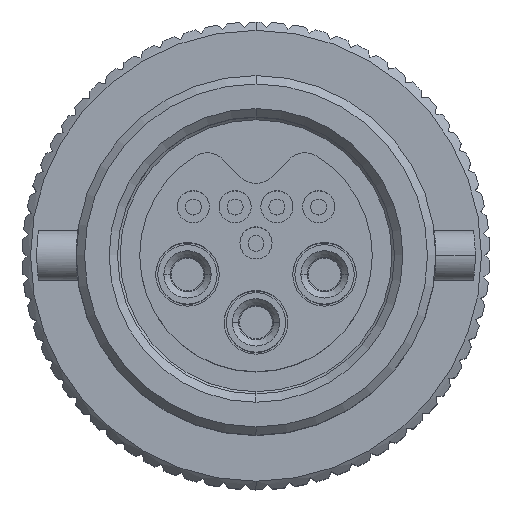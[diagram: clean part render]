
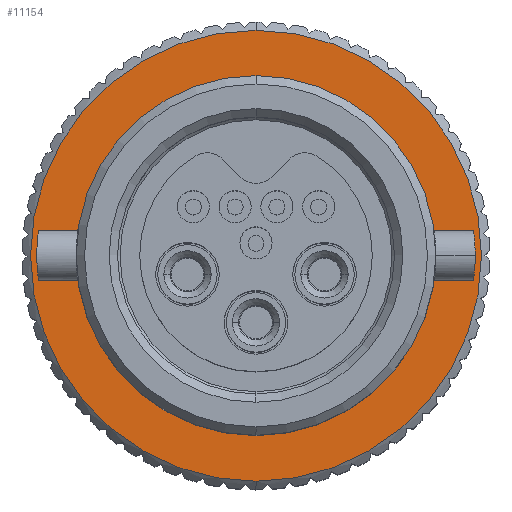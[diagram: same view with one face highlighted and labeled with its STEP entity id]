
A CAD part, top view. The second image highlights one B-rep face of the part: STEP entity #11154.
In plain terms, the highlighted planar face has unit normal (0, 0, 1).
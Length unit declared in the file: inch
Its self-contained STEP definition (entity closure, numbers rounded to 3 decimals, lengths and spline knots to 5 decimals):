
#285 = CARTESIAN_POINT ( 'NONE',  ( 0., 0.2695, 0.093 ) ) ;
#496 = DIRECTION ( 'NONE',  ( 0., 0., 1. ) ) ;
#661 = CARTESIAN_POINT ( 'NONE',  ( 0., -0.215, 0.093 ) ) ;
#840 = VERTEX_POINT ( 'NONE', #1745 ) ;
#1457 = CIRCLE ( 'NONE', #5881, 0.215 ) ;
#1745 = CARTESIAN_POINT ( 'NONE',  ( 0., -0.2695, 0.093 ) ) ;
#2102 = CIRCLE ( 'NONE', #10034, 0.2695 ) ;
#2500 = DIRECTION ( 'NONE',  ( 0., -1., 0. ) ) ;
#2824 = FACE_OUTER_BOUND ( 'NONE', #6338, .T. ) ;
#3026 = DIRECTION ( 'NONE',  ( 0., 0., 1. ) ) ;
#4313 = CARTESIAN_POINT ( 'NONE',  ( 0., 0., 0.093 ) ) ;
#4752 = CARTESIAN_POINT ( 'NONE',  ( 0., 0., 0.093 ) ) ;
#5188 = ORIENTED_EDGE ( 'NONE', *, *, #11175, .F. ) ;
#5343 = EDGE_CURVE ( 'NONE', #13303, #8748, #1457, .T. ) ;
#5881 = AXIS2_PLACEMENT_3D ( 'NONE', #10462, #3026, #13768 ) ;
#6338 = EDGE_LOOP ( 'NONE', ( #14117, #7927 ) ) ;
#6885 = AXIS2_PLACEMENT_3D ( 'NONE', #11850, #14109, #8695 ) ;
#7171 = ORIENTED_EDGE ( 'NONE', *, *, #5343, .F. ) ;
#7468 = CARTESIAN_POINT ( 'NONE',  ( 0., 0.215, 0.093 ) ) ;
#7927 = ORIENTED_EDGE ( 'NONE', *, *, #10732, .T. ) ;
#8695 = DIRECTION ( 'NONE',  ( 0., -1., 0. ) ) ;
#8748 = VERTEX_POINT ( 'NONE', #7468 ) ;
#8918 = CIRCLE ( 'NONE', #9767, 0.215 ) ;
#9767 = AXIS2_PLACEMENT_3D ( 'NONE', #4313, #10789, #12999 ) ;
#10034 = AXIS2_PLACEMENT_3D ( 'NONE', #4752, #13255, #13459 ) ;
#10462 = CARTESIAN_POINT ( 'NONE',  ( 0., 0., 0.093 ) ) ;
#10732 = EDGE_CURVE ( 'NONE', #840, #13127, #11465, .T. ) ;
#10746 = FACE_BOUND ( 'NONE', #11684, .T. ) ;
#10789 = DIRECTION ( 'NONE',  ( 0., 0., 1. ) ) ;
#10922 = PLANE ( 'NONE',  #6885 ) ;
#11154 = ADVANCED_FACE ( 'NONE', ( #2824, #10746 ), #10922, .T. ) ;
#11175 = EDGE_CURVE ( 'NONE', #8748, #13303, #8918, .T. ) ;
#11293 = CARTESIAN_POINT ( 'NONE',  ( 0., 0., 0.093 ) ) ;
#11465 = CIRCLE ( 'NONE', #12687, 0.2695 ) ;
#11684 = EDGE_LOOP ( 'NONE', ( #7171, #5188 ) ) ;
#11850 = CARTESIAN_POINT ( 'NONE',  ( 0., 0., 0.093 ) ) ;
#12687 = AXIS2_PLACEMENT_3D ( 'NONE', #11293, #496, #2500 ) ;
#12999 = DIRECTION ( 'NONE',  ( 0., -1., 0. ) ) ;
#13127 = VERTEX_POINT ( 'NONE', #285 ) ;
#13255 = DIRECTION ( 'NONE',  ( 0., 0., 1. ) ) ;
#13303 = VERTEX_POINT ( 'NONE', #661 ) ;
#13459 = DIRECTION ( 'NONE',  ( 0., -1., 0. ) ) ;
#13709 = EDGE_CURVE ( 'NONE', #13127, #840, #2102, .T. ) ;
#13768 = DIRECTION ( 'NONE',  ( 0., -1., 0. ) ) ;
#14109 = DIRECTION ( 'NONE',  ( 0., 0., 1. ) ) ;
#14117 = ORIENTED_EDGE ( 'NONE', *, *, #13709, .T. ) ;
